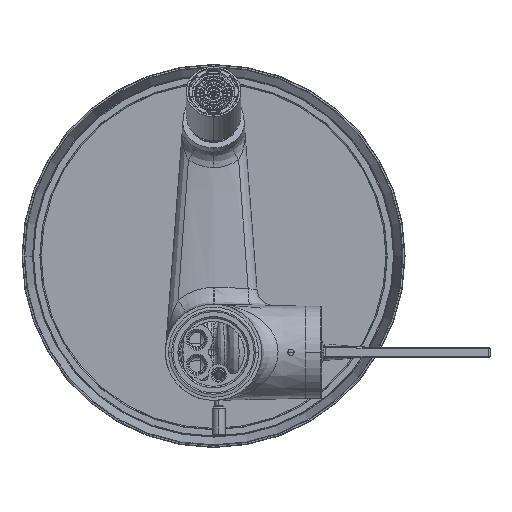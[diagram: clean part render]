
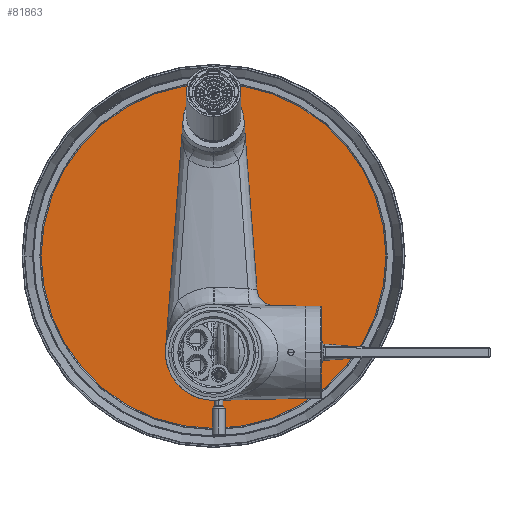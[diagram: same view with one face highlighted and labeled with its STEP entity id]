
A CAD part, front view. The second image highlights one B-rep face of the part: STEP entity #81863.
In plain terms, the highlighted planar face has unit normal (0, -1, 0).
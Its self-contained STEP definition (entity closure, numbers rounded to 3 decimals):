
#81284=CARTESIAN_POINT('',(0.,7.,-55.5));
#81285=DIRECTION('',(0.,-1.,0.));
#81286=DIRECTION('',(-1.,0.,0.));
#81287=AXIS2_PLACEMENT_3D('',#81284,#81285,#81286);
#81292=CARTESIAN_POINT('',(0.,7.,-55.5));
#81293=DIRECTION('',(0.,-1.,0.));
#81294=DIRECTION('',(1.,0.,0.));
#81295=AXIS2_PLACEMENT_3D('',#81292,#81293,#81294);
#81300=CARTESIAN_POINT('',(0.,7.,77.));
#81301=DIRECTION('',(0.,-1.,0.));
#81302=DIRECTION('',(1.,0.,0.));
#81303=AXIS2_PLACEMENT_3D('',#81300,#81301,#81302);
#81308=DIRECTION('',(0.,0.,-1.));
#81309=VECTOR('',#81308,3.);
#81310=CARTESIAN_POINT('',(-2.05,7.,77.));
#81311=LINE('',#81310,#81309);
#81315=CARTESIAN_POINT('',(0.,7.,74.));
#81316=DIRECTION('',(0.,-1.,0.));
#81317=DIRECTION('',(-1.,0.,0.));
#81318=AXIS2_PLACEMENT_3D('',#81315,#81316,#81317);
#81323=DIRECTION('',(0.,0.,1.));
#81324=VECTOR('',#81323,3.);
#81325=CARTESIAN_POINT('',(2.05,7.,74.));
#81326=LINE('',#81325,#81324);
#81330=CARTESIAN_POINT('',(0.,7.,0.));
#81331=DIRECTION('',(0.,-1.,0.));
#81332=DIRECTION('',(1.,0.,0.));
#81333=AXIS2_PLACEMENT_3D('',#81330,#81331,#81332);
#81338=CARTESIAN_POINT('',(0.,7.,0.));
#81339=DIRECTION('',(0.,-1.,0.));
#81340=DIRECTION('',(-1.,0.,0.));
#81341=AXIS2_PLACEMENT_3D('',#81338,#81339,#81340);
#81470=CARTESIAN_POINT('',(-9.05,7.,-55.5));
#81471=CARTESIAN_POINT('',(9.05,7.,-55.5));
#81472=VERTEX_POINT('',#81470);
#81473=VERTEX_POINT('',#81471);
#81474=CARTESIAN_POINT('',(2.05,7.,77.));
#81475=CARTESIAN_POINT('',(-2.05,7.,77.));
#81476=VERTEX_POINT('',#81474);
#81477=VERTEX_POINT('',#81475);
#81478=CARTESIAN_POINT('',(-2.05,7.,74.));
#81479=VERTEX_POINT('',#81478);
#81480=CARTESIAN_POINT('',(2.05,7.,74.));
#81481=VERTEX_POINT('',#81480);
#81486=CARTESIAN_POINT('',(82.386,7.,0.));
#81487=CARTESIAN_POINT('',(-82.386,7.,
0.));
#81488=VERTEX_POINT('',#81486);
#81489=VERTEX_POINT('',#81487);
#81838=CARTESIAN_POINT('',(0.,7.,0.));
#81839=DIRECTION('',(0.,1.,0.));
#81840=DIRECTION('',(1.,0.,0.));
#81841=AXIS2_PLACEMENT_3D('',#81838,#81839,#81840);
#81842=PLANE('',#81841);
#81843=ORIENTED_EDGE('',*,*,#81806,.F.);
#81844=ORIENTED_EDGE('',*,*,#81784,.F.);
#81845=EDGE_LOOP('',(#81843,#81844));
#81846=FACE_OUTER_BOUND('',#81845,.F.);
#81848=ORIENTED_EDGE('',*,*,#81847,.T.);
#81850=ORIENTED_EDGE('',*,*,#81849,.T.);
#81852=ORIENTED_EDGE('',*,*,#81851,.T.);
#81854=ORIENTED_EDGE('',*,*,#81853,.T.);
#81855=EDGE_LOOP('',(#81848,#81850,#81852,#81854));
#81856=FACE_BOUND('',#81855,.F.);
#81858=ORIENTED_EDGE('',*,*,#81857,.T.);
#81860=ORIENTED_EDGE('',*,*,#81859,.T.);
#81861=EDGE_LOOP('',(#81858,#81860));
#81862=FACE_BOUND('',#81861,.F.);
#81863=ADVANCED_FACE('',(#81846,#81856,#81862),#81842,.F.);
#81288=CIRCLE('',#81287,9.05);
#81296=CIRCLE('',#81295,9.05);
#81304=CIRCLE('',#81303,2.05);
#81319=CIRCLE('',#81318,2.05);
#81334=CIRCLE('',#81333,82.386);
#81342=CIRCLE('',#81341,82.386);
#81784=EDGE_CURVE('',#81489,#81488,#81342,.T.);
#81806=EDGE_CURVE('',#81488,#81489,#81334,.T.);
#81847=EDGE_CURVE('',#81476,#81477,#81304,.T.);
#81849=EDGE_CURVE('',#81477,#81479,#81311,.T.);
#81851=EDGE_CURVE('',#81479,#81481,#81319,.T.);
#81853=EDGE_CURVE('',#81481,#81476,#81326,.T.);
#81857=EDGE_CURVE('',#81472,#81473,#81288,.T.);
#81859=EDGE_CURVE('',#81473,#81472,#81296,.T.);
